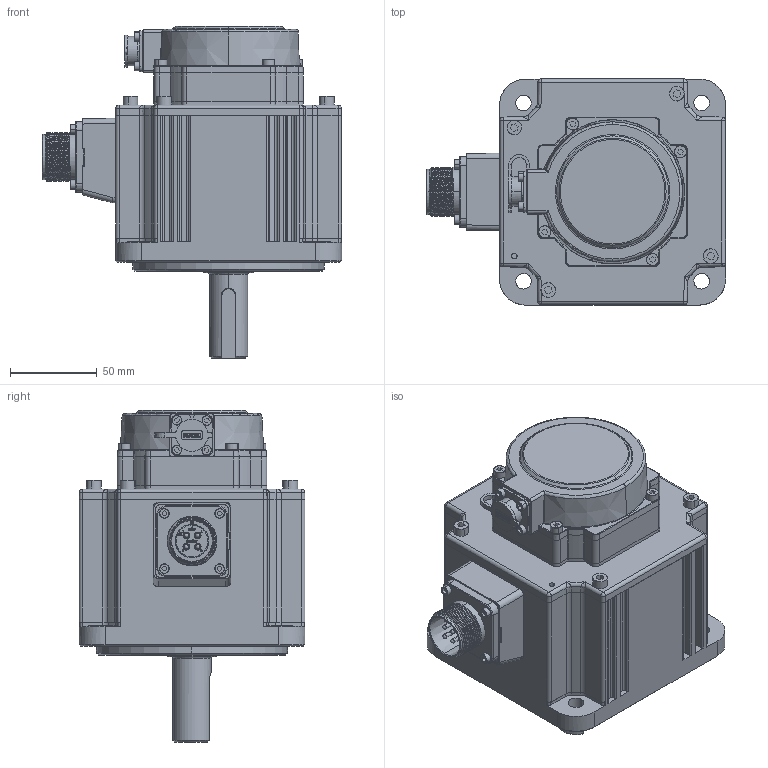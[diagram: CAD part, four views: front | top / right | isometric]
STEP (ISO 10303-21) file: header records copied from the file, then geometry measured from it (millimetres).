
FILE_DESCRIPTION (( 'STEP AP203' ), '1' );
FILE_NAME ('MS6G-130TH25B2-41P0.STEP', '2024-06-18T07:53:55', ( '' ), ( '' ), 'SwSTEP 2.0', 'SolidWorks 2022', '' );
FILE_SCHEMA (( 'CONFIG_CONTROL_DESIGN' ));
Length unit declared in the file: millimetre
Products named in the file (1): MS6G-130TH25B2-41P0
Bounding box: 172.1 x 130 x 191 mm (x, y, z)
Volume: 1727167.3 mm3; surface area: 200662.5 mm2
Topology: 26 solids, 26 shells, 2809 faces, 7570 edges, 4930 vertices
Faces by surface type: plane 1412, cylinder 666, bspline 432, cone 145, torus 134, sphere 20
Entity records: 104845 total; most frequent: CARTESIAN_POINT 39713, ORIENTED_EDGE 14988, DIRECTION 11145, EDGE_CURVE 7494, VERTEX_POINT 4920, LINE 3767, VECTOR 3767, AXIS2_PLACEMENT_3D 3689
